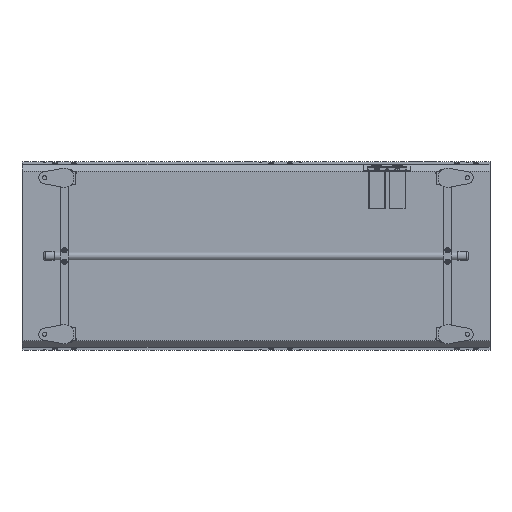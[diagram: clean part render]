
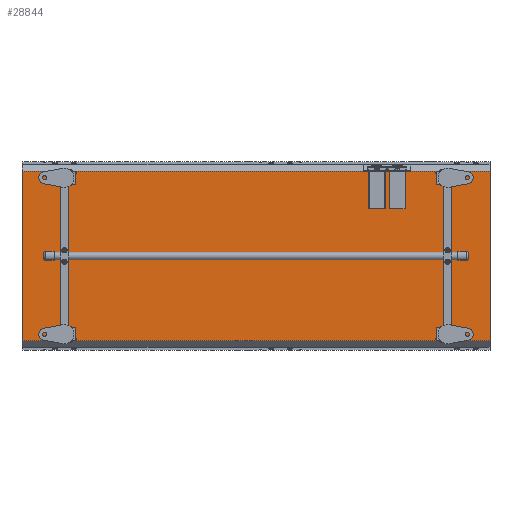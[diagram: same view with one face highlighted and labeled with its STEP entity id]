
A CAD part, front view. The second image highlights one B-rep face of the part: STEP entity #28844.
In plain terms, the highlighted planar face has unit normal (0, -1, 0).
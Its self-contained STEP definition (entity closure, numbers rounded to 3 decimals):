
#1093 = VERTEX_POINT ( 'NONE', #13264 ) ;
#3723 = FACE_OUTER_BOUND ( 'NONE', #32978, .T. ) ;
#5447 = DIRECTION ( 'NONE',  ( -1., 0., 0. ) ) ;
#6778 = EDGE_CURVE ( 'NONE', #66314, #69271, #56808, .T. ) ;
#7978 = CARTESIAN_POINT ( 'NONE',  ( 1490., -215.213, -269.787 ) ) ;
#8869 = ORIENTED_EDGE ( 'NONE', *, *, #69446, .F. ) ;
#12397 = PLANE ( 'NONE',  #56198 ) ;
#12876 = DIRECTION ( 'NONE',  ( 0., 0., 1. ) ) ;
#13264 = CARTESIAN_POINT ( 'NONE',  ( 0., -215.213, 269.787 ) ) ;
#13289 = LINE ( 'NONE', #66873, #70352 ) ;
#17764 = CARTESIAN_POINT ( 'NONE',  ( 1490., -215.213, -269.787 ) ) ;
#18429 = CARTESIAN_POINT ( 'NONE',  ( 2115.255, -215.213, 269.787 ) ) ;
#21251 = LINE ( 'NONE', #17764, #56647 ) ;
#22599 = VERTEX_POINT ( 'NONE', #55769 ) ;
#23711 = DIRECTION ( 'NONE',  ( 0., 1., 0. ) ) ;
#28076 = EDGE_CURVE ( 'NONE', #69271, #1093, #13289, .T. ) ;
#28844 = ADVANCED_FACE ( 'NONE', ( #3723 ), #12397, .F. ) ;
#30878 = CARTESIAN_POINT ( 'NONE',  ( 1490., -215.213, 269.787 ) ) ;
#32978 = EDGE_LOOP ( 'NONE', ( #8869, #52890, #69077, #48550 ) ) ;
#36915 = EDGE_CURVE ( 'NONE', #1093, #22599, #41783, .T. ) ;
#38695 = VECTOR ( 'NONE', #59255, 1000. ) ;
#41783 = LINE ( 'NONE', #57590, #49574 ) ;
#48366 = CARTESIAN_POINT ( 'NONE',  ( 1490., -215.213, 269.787 ) ) ;
#48550 = ORIENTED_EDGE ( 'NONE', *, *, #36915, .T. ) ;
#49574 = VECTOR ( 'NONE', #52737, 1000. ) ;
#52737 = DIRECTION ( 'NONE',  ( 0., 0., -1. ) ) ;
#52890 = ORIENTED_EDGE ( 'NONE', *, *, #6778, .T. ) ;
#55769 = CARTESIAN_POINT ( 'NONE',  ( 0., -215.213, -269.787 ) ) ;
#56198 = AXIS2_PLACEMENT_3D ( 'NONE', #18429, #23711, #12876 ) ;
#56377 = DIRECTION ( 'NONE',  ( -1., 0., 0. ) ) ;
#56647 = VECTOR ( 'NONE', #56377, 1000. ) ;
#56808 = LINE ( 'NONE', #48366, #38695 ) ;
#57590 = CARTESIAN_POINT ( 'NONE',  ( 0., -215.213, 269.787 ) ) ;
#59255 = DIRECTION ( 'NONE',  ( 0., 0., 1. ) ) ;
#66314 = VERTEX_POINT ( 'NONE', #7978 ) ;
#66873 = CARTESIAN_POINT ( 'NONE',  ( 2115.255, -215.213, 269.787 ) ) ;
#69077 = ORIENTED_EDGE ( 'NONE', *, *, #28076, .T. ) ;
#69271 = VERTEX_POINT ( 'NONE', #30878 ) ;
#69446 = EDGE_CURVE ( 'NONE', #66314, #22599, #21251, .T. ) ;
#70352 = VECTOR ( 'NONE', #5447, 1000. ) ;
